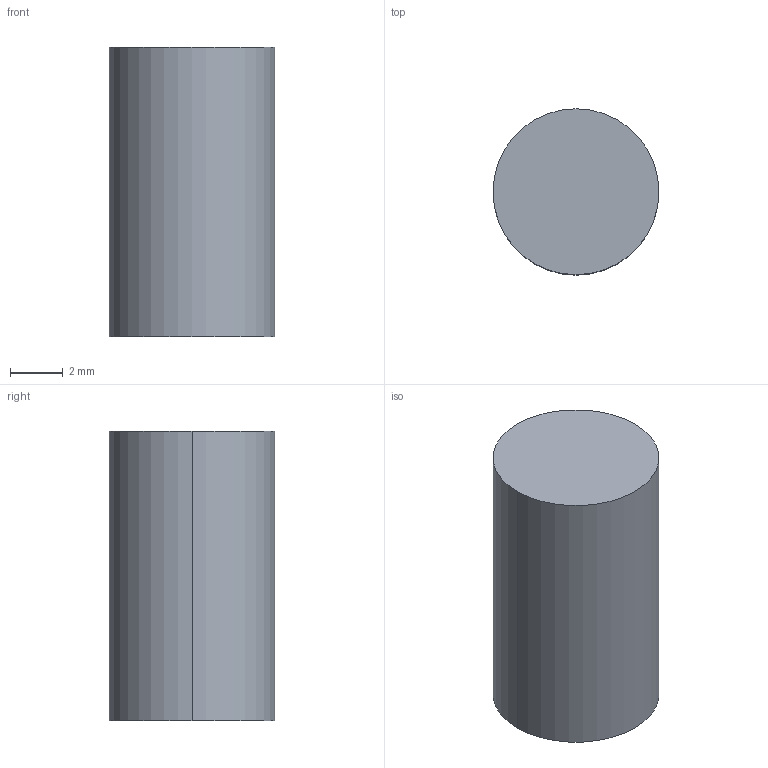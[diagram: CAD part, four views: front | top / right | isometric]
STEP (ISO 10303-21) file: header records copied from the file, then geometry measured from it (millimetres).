
FILE_DESCRIPTION((''),'2;1');
FILE_NAME('CP63_R1','2026-10-06T14:54:11',('line0'),(''),'CREO PARAMETRIC BY PTC INC, 2024344','CREO PARAMETRIC BY PTC INC, 2024344','');
FILE_SCHEMA(('AUTOMOTIVE_DESIGN { 1 0 10303 214 1 1 1 1 }'));
Length unit declared in the file: millimetre
Products named in the file (1): CP63_R1
Bounding box: 6.3 x 6.3 x 11 mm (x, y, z)
Volume: 342.9 mm3; surface area: 280.1 mm2
Topology: 1 solids, 1 shells, 4 faces, 6 edges, 4 vertices
Faces by surface type: cylinder 2, plane 2
Entity records: 276 total; most frequent: DIRECTION 35, CARTESIAN_POINT 27, AXIS2_PLACEMENT_3D 15, ORIENTED_EDGE 12, PROPERTY_DEFINITION 12, COLOUR_RGB 11, REPRESENTATION 11, PROPERTY_DEFINITION_REPRESENTATION 11
